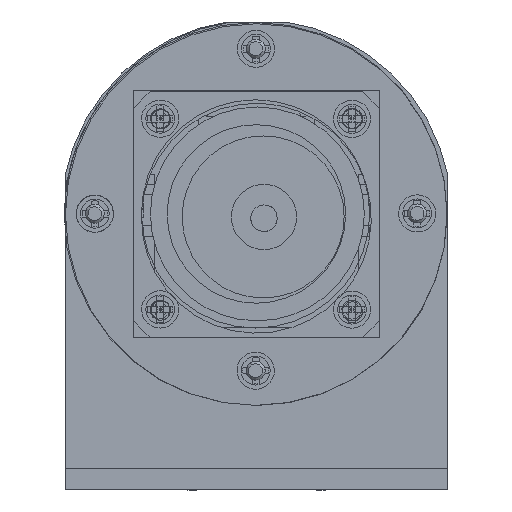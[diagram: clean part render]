
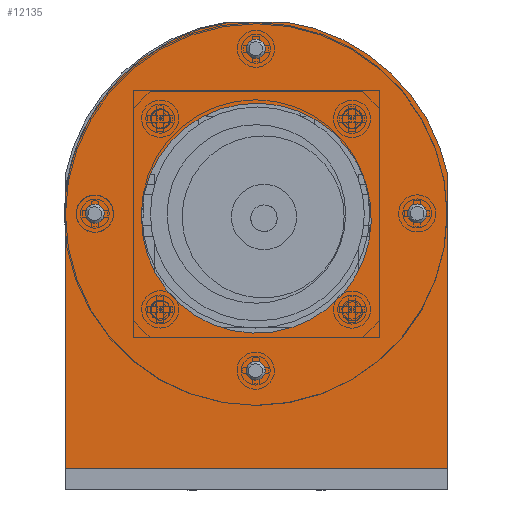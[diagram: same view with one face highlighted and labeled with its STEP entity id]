
A CAD part, front view. The second image highlights one B-rep face of the part: STEP entity #12135.
In plain terms, the highlighted planar face has unit normal (0, -1, 0).
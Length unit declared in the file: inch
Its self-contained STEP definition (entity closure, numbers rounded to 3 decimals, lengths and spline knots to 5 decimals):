
#520=FACE_BOUND('',#2356,.T.);
#842=CIRCLE('',#13198,0.67548);
#843=CIRCLE('',#13199,0.67548);
#848=CIRCLE('',#13209,1.13853);
#851=CIRCLE('',#13214,1.13853);
#1539=FACE_OUTER_BOUND('',#2355,.T.);
#2355=EDGE_LOOP('',(#9717,#9718,#9719,#9720,#9721,#9722));
#2356=EDGE_LOOP('',(#9723,#9724));
#3375=LINE('',#19981,#4391);
#3380=LINE('',#19997,#4396);
#3384=LINE('',#20004,#4400);
#3385=LINE('',#20005,#4401);
#4391=VECTOR('',#15813,0.3937);
#4396=VECTOR('',#15828,0.3937);
#4400=VECTOR('',#15834,0.3937);
#4401=VECTOR('',#15835,0.3937);
#5387=VERTEX_POINT('',#19938);
#5388=VERTEX_POINT('',#19940);
#5397=VERTEX_POINT('',#19968);
#5398=VERTEX_POINT('',#19969);
#5402=VERTEX_POINT('',#19979);
#5404=VERTEX_POINT('',#19985);
#5407=VERTEX_POINT('',#19995);
#5408=VERTEX_POINT('',#19996);
#6857=EDGE_CURVE('',#5388,#5387,#842,.T.);
#6858=EDGE_CURVE('',#5387,#5388,#843,.T.);
#6871=EDGE_CURVE('',#5397,#5398,#848,.T.);
#6877=EDGE_CURVE('',#5402,#5398,#3375,.T.);
#6880=EDGE_CURVE('',#5402,#5404,#851,.T.);
#6884=EDGE_CURVE('',#5407,#5408,#3380,.T.);
#6888=EDGE_CURVE('',#5407,#5404,#3384,.T.);
#6889=EDGE_CURVE('',#5397,#5408,#3385,.T.);
#9717=ORIENTED_EDGE('',*,*,#6871,.T.);
#9718=ORIENTED_EDGE('',*,*,#6877,.F.);
#9719=ORIENTED_EDGE('',*,*,#6880,.T.);
#9720=ORIENTED_EDGE('',*,*,#6888,.F.);
#9721=ORIENTED_EDGE('',*,*,#6884,.T.);
#9722=ORIENTED_EDGE('',*,*,#6889,.F.);
#9723=ORIENTED_EDGE('',*,*,#6857,.T.);
#9724=ORIENTED_EDGE('',*,*,#6858,.T.);
#11440=PLANE('',#13217);
#12135=ADVANCED_FACE('',(#1539,#520),#11440,.T.);
#13198=AXIS2_PLACEMENT_3D('',#19941,#15773,#15774);
#13199=AXIS2_PLACEMENT_3D('',#19942,#15775,#15776);
#13209=AXIS2_PLACEMENT_3D('',#19970,#15803,#15804);
#13214=AXIS2_PLACEMENT_3D('',#19987,#15819,#15820);
#13217=AXIS2_PLACEMENT_3D('',#20003,#15832,#15833);
#15773=DIRECTION('center_axis',(0.,1.,0.));
#15774=DIRECTION('ref_axis',(0.14,0.,-0.99));
#15775=DIRECTION('center_axis',(0.,1.,0.));
#15776=DIRECTION('ref_axis',(0.14,0.,-0.99));
#15803=DIRECTION('center_axis',(0.,-1.,0.));
#15804=DIRECTION('ref_axis',(0.14,0.,0.99));
#15813=DIRECTION('',(1.,0.,0.));
#15819=DIRECTION('center_axis',(0.,-1.,0.));
#15820=DIRECTION('ref_axis',(-0.996,0.,0.093));
#15828=DIRECTION('',(1.,0.,0.));
#15832=DIRECTION('center_axis',(0.,-1.,0.));
#15833=DIRECTION('ref_axis',(0.,0.,-1.));
#15834=DIRECTION('',(0.,0.,1.));
#15835=DIRECTION('',(0.,0.,-1.));
#19938=CARTESIAN_POINT('',(537.05549,6605.05631,1361.02358));
#19940=CARTESIAN_POINT('',(536.4813,6605.05631,1360.26014));
#19941=CARTESIAN_POINT('Origin',(537.15011,6605.05631,1360.35477));
#19942=CARTESIAN_POINT('Origin',(537.15011,6605.05631,1360.35477));
#19968=CARTESIAN_POINT('',(538.27567,6605.05631,1360.60383));
#19969=CARTESIAN_POINT('',(537.31877,6605.05631,1361.50772));
#19970=CARTESIAN_POINT('Origin',(537.15928,6605.05631,1360.38042));
#19979=CARTESIAN_POINT('',(536.99979,6605.05631,1361.50772));
#19981=CARTESIAN_POINT('',(536.99979,6605.05631,1361.50772));
#19985=CARTESIAN_POINT('',(536.02567,6605.05631,1360.48616));
#19987=CARTESIAN_POINT('Origin',(537.15928,6605.05631,1360.38042));
#19995=CARTESIAN_POINT('',(536.02567,6605.05631,1358.88272));
#19996=CARTESIAN_POINT('',(538.27567,6605.05631,1358.88272));
#19997=CARTESIAN_POINT('',(536.02567,6605.05631,1358.88272));
#20003=CARTESIAN_POINT('Origin',(537.15067,6605.05631,1358.88172));
#20004=CARTESIAN_POINT('',(536.02567,6605.05631,1358.88272));
#20005=CARTESIAN_POINT('',(538.27567,6605.05631,1360.60383));
